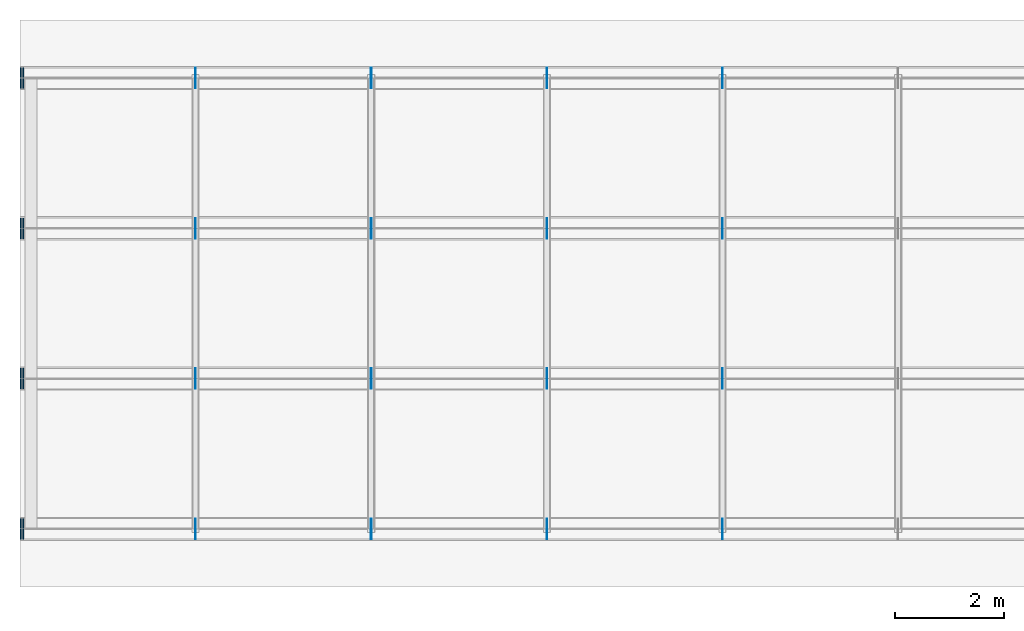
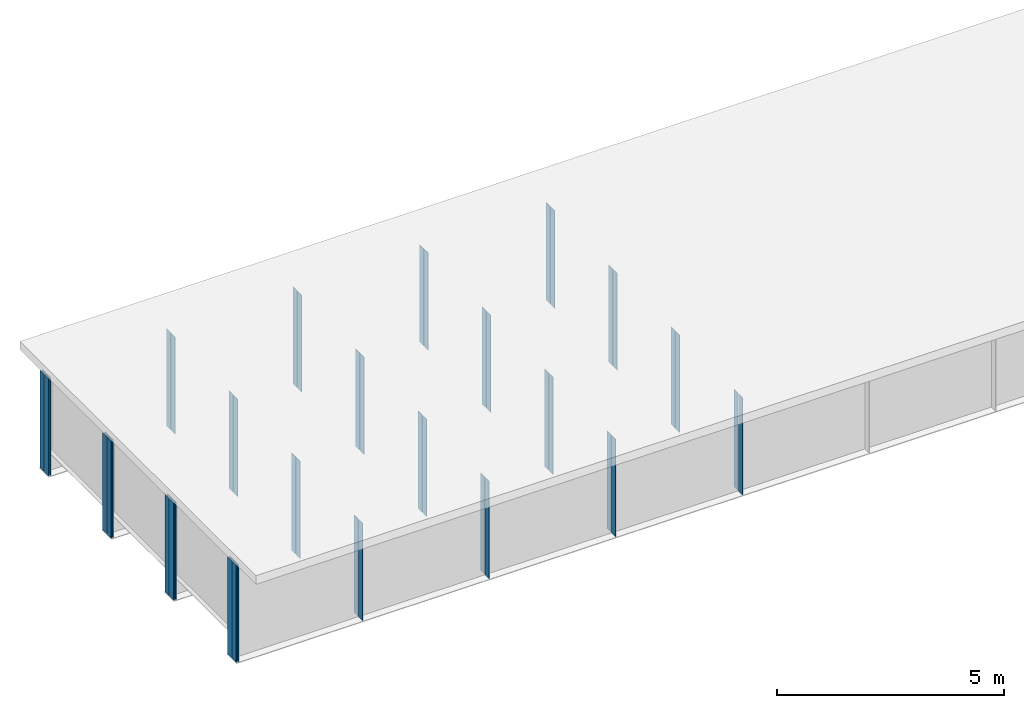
# One storey, part 3 of 13: 48 plates.
"""IFC4 building model written with IfcOpenShell, lengths in metres."""

from ifc_helpers import new_model, si_unit, frame, origin, origin_with_axes, origin_2d_with_axis, place, context, subcontext, project, spatial, rectangle, extrude, element, save


model = new_model("IFC4")

# Units and contexts
model_context = context("Model", 3, precision=1e-05, world=origin())
body_context = subcontext(model_context, "Body", "Model", "MODEL_VIEW")
ifc_project = project(units=[si_unit("LENGTHUNIT", "METRE"), si_unit("AREAUNIT", "SQUARE_METRE"), si_unit("VOLUMEUNIT", "CUBIC_METRE"), si_unit("PLANEANGLEUNIT", "RADIAN")], contexts=[model_context])

# Site, building, storey
site_placement = place(None, origin_with_axes())
site = spatial("IfcSite", under=ifc_project, at=site_placement, Name="Default Site")
building_placement = place(site_placement, origin_with_axes())
building = spatial("IfcBuilding", under=site, at=building_placement, Name="Bridge Structure")
storey_placement = place(building_placement, origin_with_axes())
storey = spatial("IfcBuildingStorey", under=building, at=storey_placement, Name="Superstructure")

# Plates
for number, where, z_axis, x_axis, name in (
    (1, (3.214, -4.02575, -1.305), (0.0, 0.0, 1.0), (1.0, 0.0, 0.0), "Intermediate Stiffener 1"),
    (2, (3.214, -4.2242500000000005, -1.305), (0.0, 0.0, 1.0), (1.0, 0.0, 0.0), "Intermediate Stiffener 1"),
    (3, (6.428, -4.02575, -1.305), (0.0, 0.0, 1.0), (1.0, 0.0, 0.0), "Intermediate Stiffener 1"),
    (4, (6.428, -4.2242500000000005, -1.305), (0.0, 0.0, 1.0), (1.0, 0.0, 0.0), "Intermediate Stiffener 1"),
    (5, (9.642, -4.02575, -1.305), (0.0, 0.0, 1.0), (1.0, 0.0, 0.0), "Intermediate Stiffener 1"),
    (6, (9.642, -4.2242500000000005, -1.305), (0.0, 0.0, 1.0), (1.0, 0.0, 0.0), "Intermediate Stiffener 1"),
    (7, (12.856, -4.02575, -1.305), (0.0, 0.0, 1.0), (1.0, 0.0, 0.0), "Intermediate Stiffener 1"),
    (8, (12.856, -4.2242500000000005, -1.305), (0.0, 0.0, 1.0), (1.0, 0.0, 0.0), "Intermediate Stiffener 1"),
):
    element("IfcPlate", number, at=place(storey_placement, frame(where, z_axis=z_axis, x_axis=x_axis)), inside=storey, Name=name, context=body_context, shape_type="SweptSolid", body=[
        extrude(rectangle(XDim=0.012, YDim=0.1765, at=origin_2d_with_axis()), origin_with_axes(), (0.0, 0.0, 1.0), 2.61),
    ])
for number, where, z_axis, x_axis, name in (
    (9, (0.01, -4.02575, -1.305), (0.0, 0.0, 1.0), (1.0, 0.0, 0.0), "End Stiffener 1"),
    (10, (0.01, -4.2242500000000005, -1.305), (0.0, 0.0, 1.0), (1.0, 0.0, 0.0), "End Stiffener 1"),
    (11, (0.06, -4.02575, -1.305), (0.0, 0.0, 1.0), (1.0, 0.0, 0.0), "End Stiffener 1"),
    (12, (0.06, -4.2242500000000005, -1.305), (0.0, 0.0, 1.0), (1.0, 0.0, 0.0), "End Stiffener 1"),
):
    element("IfcPlate", number, at=place(storey_placement, frame(where, z_axis=z_axis, x_axis=x_axis)), inside=storey, Name=name, context=body_context, shape_type="SweptSolid", body=[
        extrude(rectangle(XDim=0.02, YDim=0.1765, at=origin_2d_with_axis()), origin_with_axes(), (0.0, 0.0, 1.0), 2.61),
    ])
for number, where, z_axis, x_axis, name in (
    (13, (3.214, -1.27575, -1.305), (0.0, 0.0, 1.0), (1.0, 0.0, 0.0), "Intermediate Stiffener 2"),
    (14, (3.214, -1.47425, -1.305), (0.0, 0.0, 1.0), (1.0, 0.0, 0.0), "Intermediate Stiffener 2"),
    (15, (6.428, -1.27575, -1.305), (0.0, 0.0, 1.0), (1.0, 0.0, 0.0), "Intermediate Stiffener 2"),
    (16, (6.428, -1.47425, -1.305), (0.0, 0.0, 1.0), (1.0, 0.0, 0.0), "Intermediate Stiffener 2"),
    (17, (9.642, -1.27575, -1.305), (0.0, 0.0, 1.0), (1.0, 0.0, 0.0), "Intermediate Stiffener 2"),
    (18, (9.642, -1.47425, -1.305), (0.0, 0.0, 1.0), (1.0, 0.0, 0.0), "Intermediate Stiffener 2"),
    (19, (12.856, -1.27575, -1.305), (0.0, 0.0, 1.0), (1.0, 0.0, 0.0), "Intermediate Stiffener 2"),
    (20, (12.856, -1.47425, -1.305), (0.0, 0.0, 1.0), (1.0, 0.0, 0.0), "Intermediate Stiffener 2"),
):
    element("IfcPlate", number, at=place(storey_placement, frame(where, z_axis=z_axis, x_axis=x_axis)), inside=storey, Name=name, context=body_context, shape_type="SweptSolid", body=[
        extrude(rectangle(XDim=0.012, YDim=0.1765, at=origin_2d_with_axis()), origin_with_axes(), (0.0, 0.0, 1.0), 2.61),
    ])
for number, where, z_axis, x_axis, name in (
    (21, (0.01, -1.27575, -1.305), (0.0, 0.0, 1.0), (1.0, 0.0, 0.0), "End Stiffener 2"),
    (22, (0.01, -1.47425, -1.305), (0.0, 0.0, 1.0), (1.0, 0.0, 0.0), "End Stiffener 2"),
    (23, (0.06, -1.27575, -1.305), (0.0, 0.0, 1.0), (1.0, 0.0, 0.0), "End Stiffener 2"),
    (24, (0.06, -1.47425, -1.305), (0.0, 0.0, 1.0), (1.0, 0.0, 0.0), "End Stiffener 2"),
):
    element("IfcPlate", number, at=place(storey_placement, frame(where, z_axis=z_axis, x_axis=x_axis)), inside=storey, Name=name, context=body_context, shape_type="SweptSolid", body=[
        extrude(rectangle(XDim=0.02, YDim=0.1765, at=origin_2d_with_axis()), origin_with_axes(), (0.0, 0.0, 1.0), 2.61),
    ])
for number, where, z_axis, x_axis, name in (
    (25, (3.214, 1.47425, -1.305), (0.0, 0.0, 1.0), (1.0, 0.0, 0.0), "Intermediate Stiffener 3"),
    (26, (3.214, 1.27575, -1.305), (0.0, 0.0, 1.0), (1.0, 0.0, 0.0), "Intermediate Stiffener 3"),
    (27, (6.428, 1.47425, -1.305), (0.0, 0.0, 1.0), (1.0, 0.0, 0.0), "Intermediate Stiffener 3"),
    (28, (6.428, 1.27575, -1.305), (0.0, 0.0, 1.0), (1.0, 0.0, 0.0), "Intermediate Stiffener 3"),
    (29, (9.642, 1.47425, -1.305), (0.0, 0.0, 1.0), (1.0, 0.0, 0.0), "Intermediate Stiffener 3"),
    (30, (9.642, 1.27575, -1.305), (0.0, 0.0, 1.0), (1.0, 0.0, 0.0), "Intermediate Stiffener 3"),
    (31, (12.856, 1.47425, -1.305), (0.0, 0.0, 1.0), (1.0, 0.0, 0.0), "Intermediate Stiffener 3"),
    (32, (12.856, 1.27575, -1.305), (0.0, 0.0, 1.0), (1.0, 0.0, 0.0), "Intermediate Stiffener 3"),
):
    element("IfcPlate", number, at=place(storey_placement, frame(where, z_axis=z_axis, x_axis=x_axis)), inside=storey, Name=name, context=body_context, shape_type="SweptSolid", body=[
        extrude(rectangle(XDim=0.012, YDim=0.1765, at=origin_2d_with_axis()), origin_with_axes(), (0.0, 0.0, 1.0), 2.61),
    ])
for number, where, z_axis, x_axis, name in (
    (33, (0.01, 1.47425, -1.305), (0.0, 0.0, 1.0), (1.0, 0.0, 0.0), "End Stiffener 3"),
    (34, (0.01, 1.27575, -1.305), (0.0, 0.0, 1.0), (1.0, 0.0, 0.0), "End Stiffener 3"),
    (35, (0.06, 1.47425, -1.305), (0.0, 0.0, 1.0), (1.0, 0.0, 0.0), "End Stiffener 3"),
    (36, (0.06, 1.27575, -1.305), (0.0, 0.0, 1.0), (1.0, 0.0, 0.0), "End Stiffener 3"),
):
    element("IfcPlate", number, at=place(storey_placement, frame(where, z_axis=z_axis, x_axis=x_axis)), inside=storey, Name=name, context=body_context, shape_type="SweptSolid", body=[
        extrude(rectangle(XDim=0.02, YDim=0.1765, at=origin_2d_with_axis()), origin_with_axes(), (0.0, 0.0, 1.0), 2.61),
    ])
for number, where, z_axis, x_axis, name in (
    (37, (3.214, 4.2242500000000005, -1.305), (0.0, 0.0, 1.0), (1.0, 0.0, 0.0), "Intermediate Stiffener 4"),
    (38, (3.214, 4.02575, -1.305), (0.0, 0.0, 1.0), (1.0, 0.0, 0.0), "Intermediate Stiffener 4"),
    (39, (6.428, 4.2242500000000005, -1.305), (0.0, 0.0, 1.0), (1.0, 0.0, 0.0), "Intermediate Stiffener 4"),
    (40, (6.428, 4.02575, -1.305), (0.0, 0.0, 1.0), (1.0, 0.0, 0.0), "Intermediate Stiffener 4"),
    (41, (9.642, 4.2242500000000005, -1.305), (0.0, 0.0, 1.0), (1.0, 0.0, 0.0), "Intermediate Stiffener 4"),
    (42, (9.642, 4.02575, -1.305), (0.0, 0.0, 1.0), (1.0, 0.0, 0.0), "Intermediate Stiffener 4"),
    (43, (12.856, 4.2242500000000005, -1.305), (0.0, 0.0, 1.0), (1.0, 0.0, 0.0), "Intermediate Stiffener 4"),
    (44, (12.856, 4.02575, -1.305), (0.0, 0.0, 1.0), (1.0, 0.0, 0.0), "Intermediate Stiffener 4"),
):
    element("IfcPlate", number, at=place(storey_placement, frame(where, z_axis=z_axis, x_axis=x_axis)), inside=storey, Name=name, context=body_context, shape_type="SweptSolid", body=[
        extrude(rectangle(XDim=0.012, YDim=0.1765, at=origin_2d_with_axis()), origin_with_axes(), (0.0, 0.0, 1.0), 2.61),
    ])
for number, where, z_axis, x_axis, name in (
    (45, (0.01, 4.2242500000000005, -1.305), (0.0, 0.0, 1.0), (1.0, 0.0, 0.0), "End Stiffener 4"),
    (46, (0.01, 4.02575, -1.305), (0.0, 0.0, 1.0), (1.0, 0.0, 0.0), "End Stiffener 4"),
    (47, (0.06, 4.2242500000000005, -1.305), (0.0, 0.0, 1.0), (1.0, 0.0, 0.0), "End Stiffener 4"),
    (48, (0.06, 4.02575, -1.305), (0.0, 0.0, 1.0), (1.0, 0.0, 0.0), "End Stiffener 4"),
):
    element("IfcPlate", number, at=place(storey_placement, frame(where, z_axis=z_axis, x_axis=x_axis)), inside=storey, Name=name, context=body_context, shape_type="SweptSolid", body=[
        extrude(rectangle(XDim=0.02, YDim=0.1765, at=origin_2d_with_axis()), origin_with_axes(), (0.0, 0.0, 1.0), 2.61),
    ])

save(model, "model.ifc")
